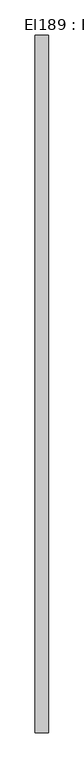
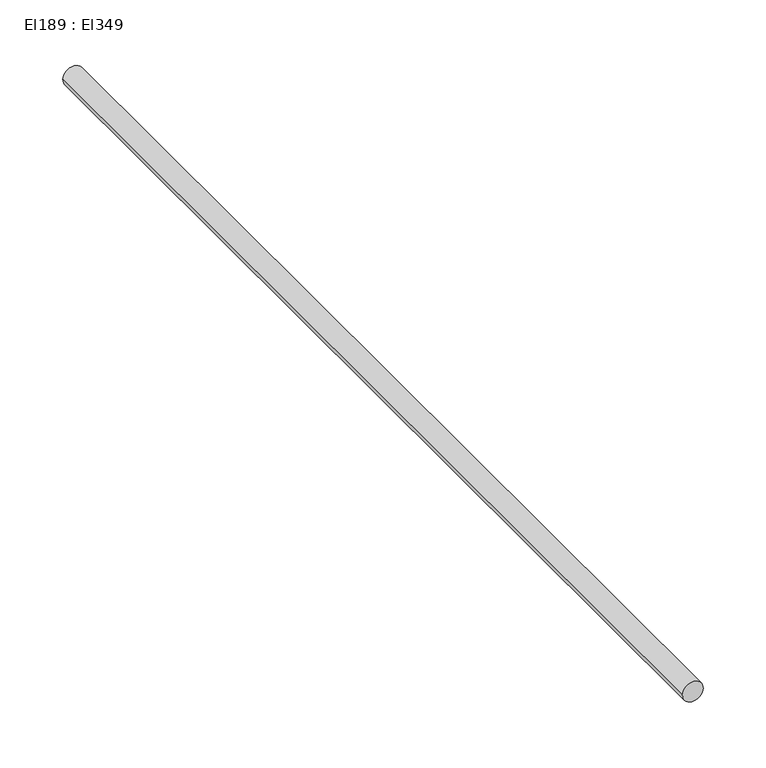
"""IFC4 building model written with IfcOpenShell, lengths in millimetres: cable carrier segment geometry, El189 : El349."""

from ifc_helpers import new_model, si_unit, point, frame, frame_2d, origin, place, context, project, spatial, circle_curve, trimmed, segment, composite_curve, outline, extrude, source, transform, mapped, element, save


def el189_el349_dfe210b5(model_context):
    return source(origin(), model_context, "Body", "SweptSolid", [
        extrude(outline(composite_curve([segment(trimmed(circle_curve(frame_2d((1800.0, 11714.4746511)), 9.5), [point((1800.0, 11704.9746511))], [point((1800.0, 11723.9746511))], False, "CARTESIAN"), True, "CONTINUOUS"), segment(trimmed(circle_curve(frame_2d((1800.0, 11714.4746511)), 9.5), [point((1800.0, 11723.9746511))], [point((1800.0, 11704.9746511))], False, "CARTESIAN"), True, "CONTINUOUS")], self_intersect=False)), frame((0.0, 1250.9471745, 0.0), z_axis=(0.0, 1.0, 0.0), x_axis=(0.0, 0.0, 1.0)), (0.0, 0.0, 1.0), 986.531),
    ])


if __name__ == "__main__":
    model = new_model("IFC4")
    model_context = context("Model", 3, world=origin())
    ifc_project = project(units=[si_unit("LENGTHUNIT", "METRE", prefix="MILLI")], contexts=[model_context])
    site = spatial("IfcSite", under=ifc_project)
    building = spatial("IfcBuilding", under=site)
    placement = place(None, origin())
    el189_el349_shape = el189_el349_dfe210b5(model_context)
    element("IfcCableCarrierSegment", 1, ObjectType="El189 : El349", at=placement, inside=building, context=model_context, shape_type="MappedRepresentation", body=[
        mapped(el189_el349_shape, transform((0.0, 0.0, 0.0), x_axis=(1.0, 0.0, 0.0), y_axis=(0.0, 1.0, 0.0), z_axis=(0.0, 0.0, 1.0))),
    ])
    save(model, "model.ifc")
